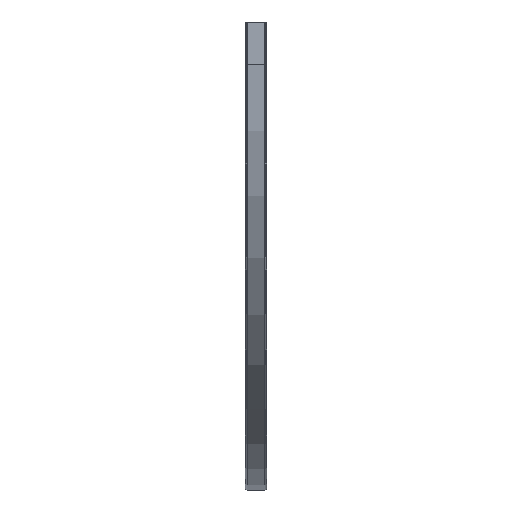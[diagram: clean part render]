
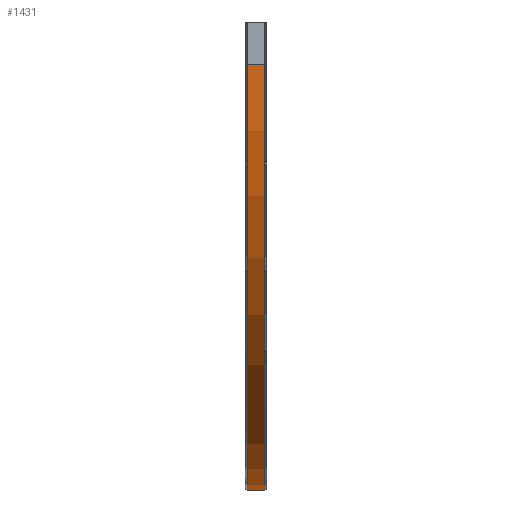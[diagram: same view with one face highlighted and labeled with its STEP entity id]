
A CAD part, left-side view. The second image highlights one B-rep face of the part: STEP entity #1431.
In plain terms, the highlighted cylindrical face has radius 766.763 mm (diameter 1533.53 mm), a partial arc.
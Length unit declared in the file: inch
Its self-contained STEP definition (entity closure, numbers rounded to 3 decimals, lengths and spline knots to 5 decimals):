
#28 = CARTESIAN_POINT ( 'NONE',  ( 0., 0.635, 0. ) ) ;
#380 = AXIS2_PLACEMENT_3D ( 'NONE', #28, #5574, #4994 ) ;
#381 = CYLINDRICAL_SURFACE ( 'NONE', #1185, 30.1875 ) ;
#400 = EDGE_CURVE ( 'NONE', #1618, #3590, #2296, .T. ) ;
#412 = CARTESIAN_POINT ( 'NONE',  ( 0., 0., 0. ) ) ;
#448 = DIRECTION ( 'NONE',  ( 0., 0., 1. ) ) ;
#592 = LINE ( 'NONE', #2593, #4339 ) ;
#763 = EDGE_CURVE ( 'NONE', #6244, #5530, #592, .T. ) ;
#858 = ORIENTED_EDGE ( 'NONE', *, *, #763, .F. ) ;
#974 = EDGE_LOOP ( 'NONE', ( #6298, #858, #1242, #6192 ) ) ;
#982 = CARTESIAN_POINT ( 'NONE',  ( -30.1875, -0.635, 0. ) ) ;
#1185 = AXIS2_PLACEMENT_3D ( 'NONE', #412, #6000, #448 ) ;
#1242 = ORIENTED_EDGE ( 'NONE', *, *, #4528, .T. ) ;
#1431 = ADVANCED_FACE ( 'NONE', ( #2884 ), #381, .T. ) ;
#1616 = CIRCLE ( 'NONE', #5812, 30.1875 ) ;
#1618 = VERTEX_POINT ( 'NONE', #982 ) ;
#2252 = DIRECTION ( 'NONE',  ( 0., 0., -1. ) ) ;
#2256 = EDGE_CURVE ( 'NONE', #5530, #3590, #2690, .T. ) ;
#2296 = LINE ( 'NONE', #2732, #5880 ) ;
#2593 = CARTESIAN_POINT ( 'NONE',  ( 0., 0.635, -30.1875 ) ) ;
#2690 = CIRCLE ( 'NONE', #380, 30.1875 ) ;
#2732 = CARTESIAN_POINT ( 'NONE',  ( -30.1875, 0.635, 0. ) ) ;
#2734 = CARTESIAN_POINT ( 'NONE',  ( -30.1875, 0.635, 0. ) ) ;
#2884 = FACE_OUTER_BOUND ( 'NONE', #974, .T. ) ;
#3411 = CARTESIAN_POINT ( 'NONE',  ( 0., 0.635, -30.1875 ) ) ;
#3489 = CARTESIAN_POINT ( 'NONE',  ( 0., -0.635, -30.1875 ) ) ;
#3590 = VERTEX_POINT ( 'NONE', #2734 ) ;
#4189 = DIRECTION ( 'NONE',  ( 0., 1., 0. ) ) ;
#4321 = DIRECTION ( 'NONE',  ( 0., 1., 0. ) ) ;
#4339 = VECTOR ( 'NONE', #4189, 39.37008 ) ;
#4528 = EDGE_CURVE ( 'NONE', #6244, #1618, #1616, .T. ) ;
#4994 = DIRECTION ( 'NONE',  ( 0., 0., -1. ) ) ;
#5530 = VERTEX_POINT ( 'NONE', #3411 ) ;
#5574 = DIRECTION ( 'NONE',  ( 0., 1., 0. ) ) ;
#5812 = AXIS2_PLACEMENT_3D ( 'NONE', #5835, #6322, #2252 ) ;
#5835 = CARTESIAN_POINT ( 'NONE',  ( 0., -0.635, 0. ) ) ;
#5880 = VECTOR ( 'NONE', #4321, 39.37008 ) ;
#6000 = DIRECTION ( 'NONE',  ( 0., 1., 0. ) ) ;
#6192 = ORIENTED_EDGE ( 'NONE', *, *, #400, .T. ) ;
#6244 = VERTEX_POINT ( 'NONE', #3489 ) ;
#6298 = ORIENTED_EDGE ( 'NONE', *, *, #2256, .F. ) ;
#6322 = DIRECTION ( 'NONE',  ( 0., 1., 0. ) ) ;
